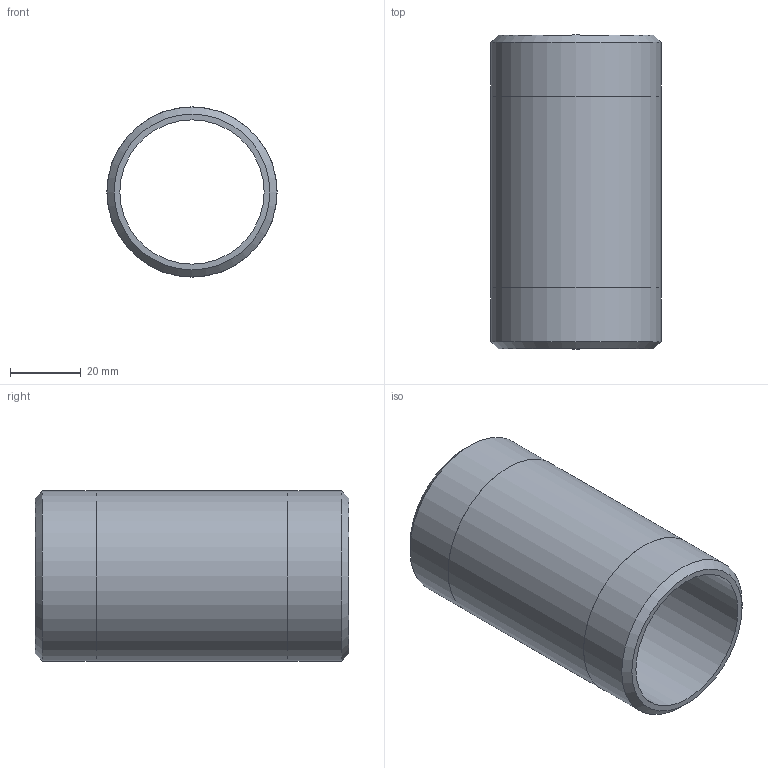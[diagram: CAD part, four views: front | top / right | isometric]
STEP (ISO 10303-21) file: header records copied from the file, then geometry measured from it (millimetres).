
FILE_DESCRIPTION(/* description */ (''),/* implementation_level */ '2;1');
FILE_NAME(/* name */ 'C:/Users/drich/Desktop/BPN1-1_2-3-1_2 v1.step',/* time_stamp */ '2020-01-03T14:26:45-06:00',/* author */ (''),/* organization */ (''),/* preprocessor_version */ 'ST-DEVELOPER v18',/* originating_system */ 'Autodesk Translation Framework v8.12.0.6',/* authorisation */ '');
FILE_SCHEMA (('AUTOMOTIVE_DESIGN { 1 0 10303 214 3 1 1 }'));
Length unit declared in the file: inch
Products named in the file (1): BPN1-1_2-3-1_2
Bounding box: 48.26 x 88.9 x 48.26 mm (x, y, z)
Volume: 45111.7 mm3; surface area: 25554.3 mm2
Topology: 1 solids, 1 shells, 10 faces, 24 edges, 18 vertices
Faces by surface type: cylinder 4, plane 4, cone 2
Full cylindrical faces by diameter (mm): 40.894 x1, 48.209 x2, 48.26 x1
Entity records: 360 total; most frequent: DIRECTION 64, CARTESIAN_POINT 53, ORIENTED_EDGE 48, AXIS2_PLACEMENT_3D 29, EDGE_CURVE 24, CIRCLE 18, VERTEX_POINT 18, EDGE_LOOP 14
